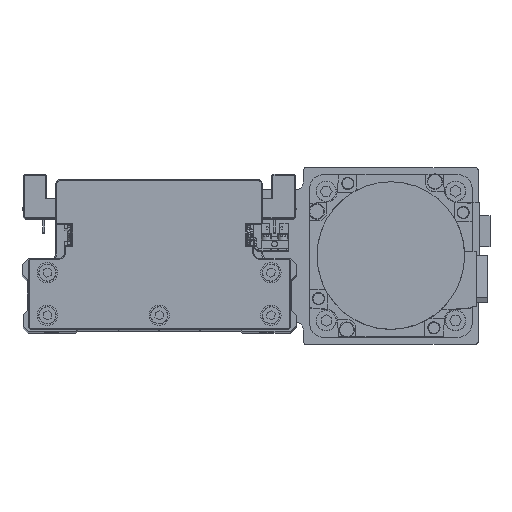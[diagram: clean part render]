
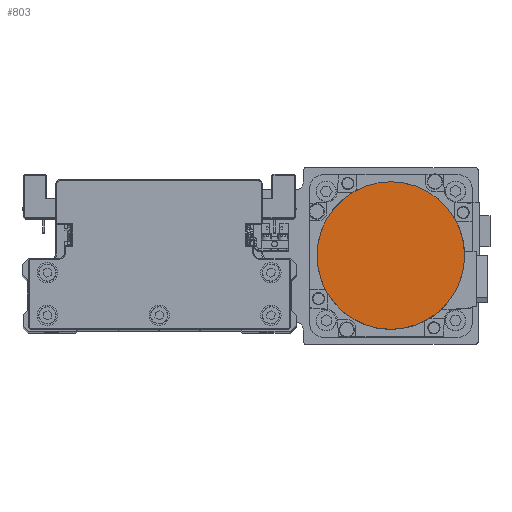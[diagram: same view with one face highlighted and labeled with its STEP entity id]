
A CAD part, top view. The second image highlights one B-rep face of the part: STEP entity #803.
In plain terms, the highlighted planar face has unit normal (0, 0, 1) as drawn and (0, 0, -1) by its records, which use the part's own axes.
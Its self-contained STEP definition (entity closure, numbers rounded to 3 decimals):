
#803 = ADVANCED_FACE ( 'NONE', ( #35591 ), #8266, .F. ) ;
#3923 = VERTEX_POINT ( 'NONE', #26620 ) ;
#5282 = DIRECTION ( 'NONE',  ( 1., 0., 0. ) ) ;
#7603 = DIRECTION ( 'NONE',  ( 0., 1., 0. ) ) ;
#8266 = PLANE ( 'NONE',  #8645 ) ;
#8645 = AXIS2_PLACEMENT_3D ( 'NONE', #20444, #32610, #5282 ) ;
#9483 = CARTESIAN_POINT ( 'NONE',  ( 0., -36.3, -122.2 ) ) ;
#10777 = DIRECTION ( 'NONE',  ( 0., 0., 1. ) ) ;
#12699 = VERTEX_POINT ( 'NONE', #9483 ) ;
#20444 = CARTESIAN_POINT ( 'NONE',  ( 0., 0., -122.2 ) ) ;
#20963 = ORIENTED_EDGE ( 'NONE', *, *, #27015, .F. ) ;
#21735 = AXIS2_PLACEMENT_3D ( 'NONE', #22767, #34929, #7603 ) ;
#22767 = CARTESIAN_POINT ( 'NONE',  ( 0., 0., -122.2 ) ) ;
#22956 = DIRECTION ( 'NONE',  ( 0., -1., 0. ) ) ;
#23878 = CIRCLE ( 'NONE', #28994, 36.3 ) ;
#26620 = CARTESIAN_POINT ( 'NONE',  ( 0., 36.3, -122.2 ) ) ;
#27015 = EDGE_CURVE ( 'NONE', #12699, #3923, #23878, .T. ) ;
#27336 = EDGE_LOOP ( 'NONE', ( #30567, #20963 ) ) ;
#28994 = AXIS2_PLACEMENT_3D ( 'NONE', #38084, #10777, #22956 ) ;
#30567 = ORIENTED_EDGE ( 'NONE', *, *, #34655, .F. ) ;
#32610 = DIRECTION ( 'NONE',  ( 0., 0., 1. ) ) ;
#34655 = EDGE_CURVE ( 'NONE', #3923, #12699, #38912, .T. ) ;
#34929 = DIRECTION ( 'NONE',  ( 0., 0., 1. ) ) ;
#35591 = FACE_OUTER_BOUND ( 'NONE', #27336, .T. ) ;
#38084 = CARTESIAN_POINT ( 'NONE',  ( 0., 0., -122.2 ) ) ;
#38912 = CIRCLE ( 'NONE', #21735, 36.3 ) ;
